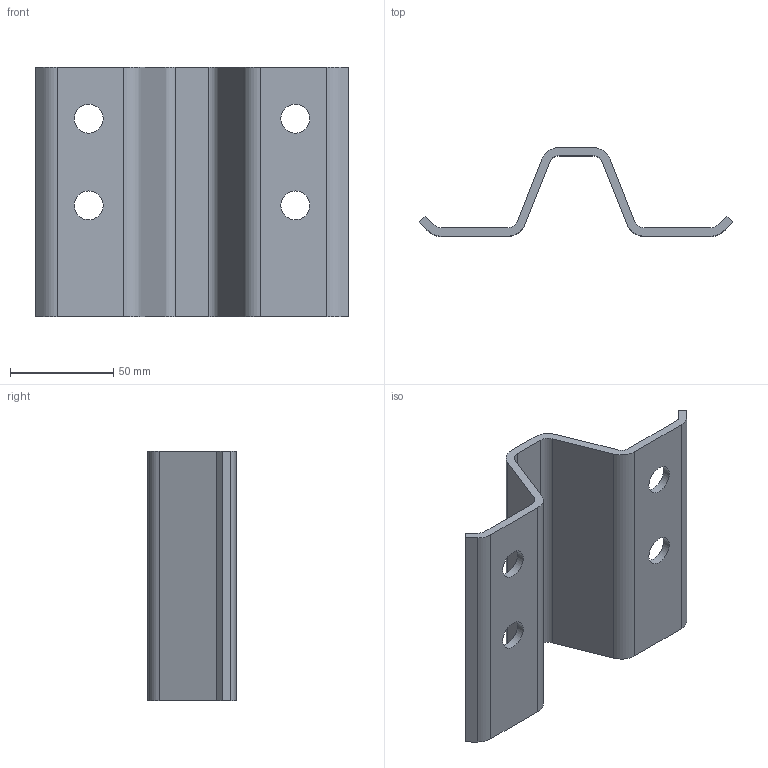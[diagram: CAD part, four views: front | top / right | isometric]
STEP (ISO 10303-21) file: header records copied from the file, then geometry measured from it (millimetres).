
FILE_DESCRIPTION(/* description */ (''),/* implementation_level */ '2;1');
FILE_NAME(/* name */ 'ZC140.stp',/* time_stamp */ '2023-07-03T11:19:19+02:00',/* author */ ('woriedl'),/* organization */ (''),/* preprocessor_version */ 'ST-DEVELOPER v19.2',/* originating_system */ 'AutoCAD Mechanical',/* authorisation */ '');
FILE_SCHEMA (('AUTOMOTIVE_DESIGN { 1 0 10303 214 3 1 1 }'));
Length unit declared in the file: centimetre
Products named in the file (1): Product
Bounding box: 151.72 x 43 x 121 mm (x, y, z)
Volume: 95219.9 mm3; surface area: 50896.3 mm2
Topology: 1 solids, 1 shells, 34 faces, 96 edges, 64 vertices
Faces by surface type: plane 18, cylinder 16
Full cylindrical faces by diameter (mm): 14 x4
Entity records: 1151 total; most frequent: DIRECTION 198, CARTESIAN_POINT 195, ORIENTED_EDGE 192, EDGE_CURVE 96, AXIS2_PLACEMENT_3D 67, LINE 64, VECTOR 64, VERTEX_POINT 64
